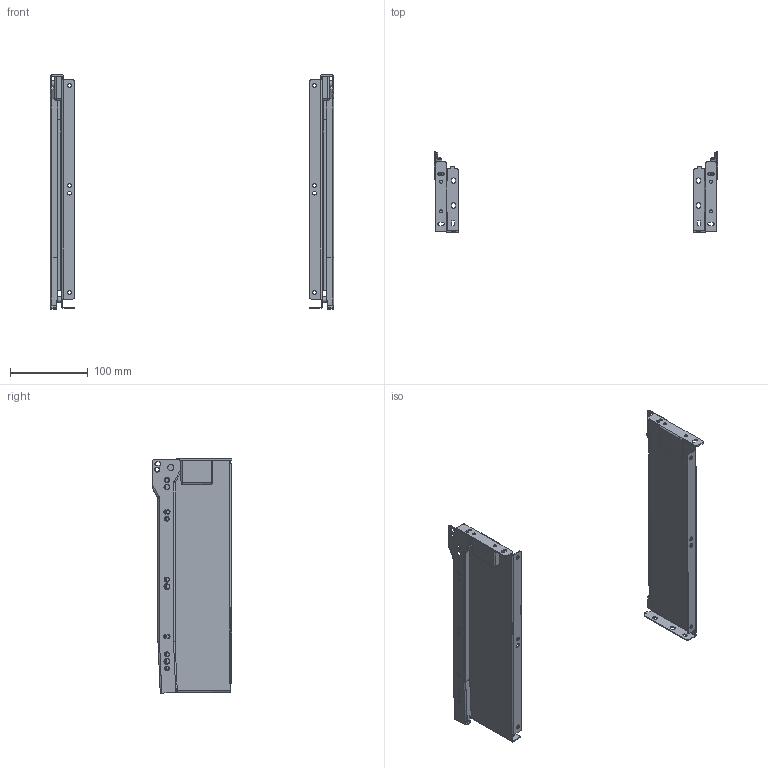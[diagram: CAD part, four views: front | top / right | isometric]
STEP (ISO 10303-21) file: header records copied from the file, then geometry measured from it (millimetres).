
FILE_DESCRIPTION(/* description */ (''),/* implementation_level */ '2;1');
FILE_NAME(/* name */ 'D:\$Workingspace\Designs\Katalog\Cadsoft\GTV Prwadnice II\MP (2)\MP\Metal box 3D\MP-086300-10.stp',/* time_stamp */ '2017-02-09T10:10:08+01:00',/* author */ ('tomaszw'),/* organization */ (''),/* preprocessor_version */ 'ST-DEVELOPER v16.1',/* originating_system */ 'Autodesk Inventor 2016',/* authorisation */ '');
FILE_SCHEMA (('CONFIG_CONTROL_DESIGN'));
Length unit declared in the file: millimetre
Products named in the file (5): MP-300-10_CL; MP-300-10_CR; MP-086300-10_DL; MP-086300-10_DR; MP
Assembly tree (4 placements, depth 2):
  MP
    MP-300-10_CL
    MP-300-10_CR
    MP-086300-10_DL
    MP-086300-10_DR
Bounding box: 364 x 102.55 x 301.27 mm (x, y, z)
Volume: 142764.7 mm3; surface area: 202562.3 mm2
Topology: 8 solids, 8 shells, 476 faces, 1230 edges, 782 vertices
Faces by surface type: plane 222, cylinder 196, cone 26, torus 20, sphere 12
Full cylindrical faces by diameter (mm): 4 x4, 4.8 x4, 5 x8, 5.5 x8, 6.5 x6, 7 x4, 8 x4, 18.5 x4
Entity records: 15041 total; most frequent: CARTESIAN_POINT 2643, DIRECTION 2532, ORIENTED_EDGE 2308, EDGE_CURVE 1154, AXIS2_PLACEMENT_3D 911, VERTEX_POINT 774, LINE 710, VECTOR 710
